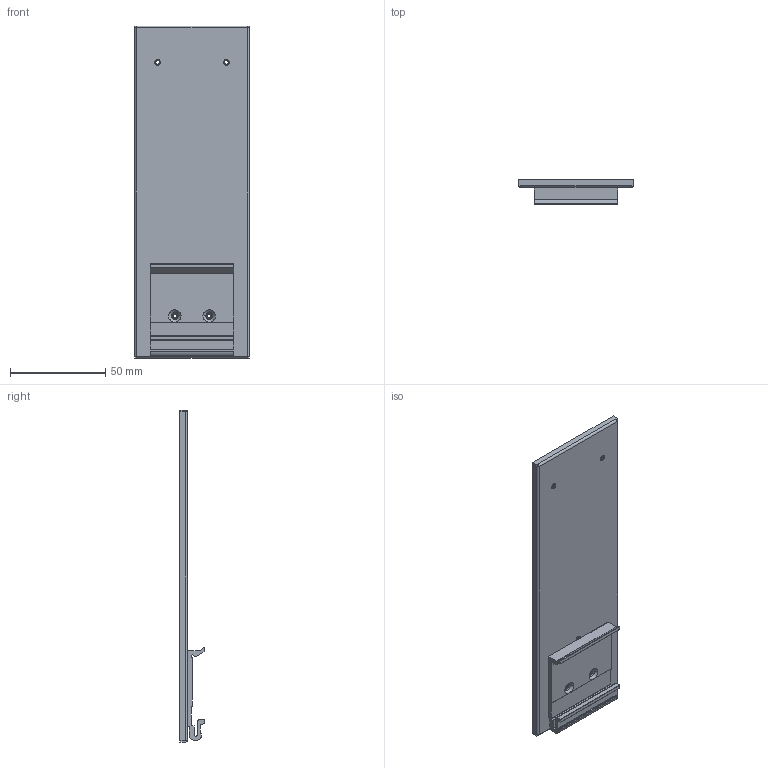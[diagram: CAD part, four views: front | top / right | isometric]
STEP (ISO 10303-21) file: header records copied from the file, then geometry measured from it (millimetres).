
FILE_DESCRIPTION((''),'2;1');
FILE_NAME('DK-TN-5308','2012-11-19T',('Chialu_Chang'),(''),'PRO/ENGINEER BY PARAMETRIC TECHNOLOGY CORPORATION, 2004320','PRO/ENGINEER BY PARAMETRIC TECHNOLOGY CORPORATION, 2004320','');
FILE_SCHEMA(('CONFIG_CONTROL_DESIGN'));
Length unit declared in the file: millimetre
Products named in the file (1): DK-TN-5308
Bounding box: 60 x 12.8 x 174 mm (x, y, z)
Volume: 18337.5 mm3; surface area: 27437.2 mm2
Topology: 1 solids, 6 shells, 163 faces, 407 edges, 256 vertices
Faces by surface type: cylinder 71, plane 68, cone 24
Entity records: 4923 total; most frequent: DIRECTION 907, CARTESIAN_POINT 835, ORIENTED_EDGE 794, EDGE_CURVE 407, AXIS2_PLACEMENT_3D 338, VERTEX_POINT 256, VECTOR 231, LINE 231
